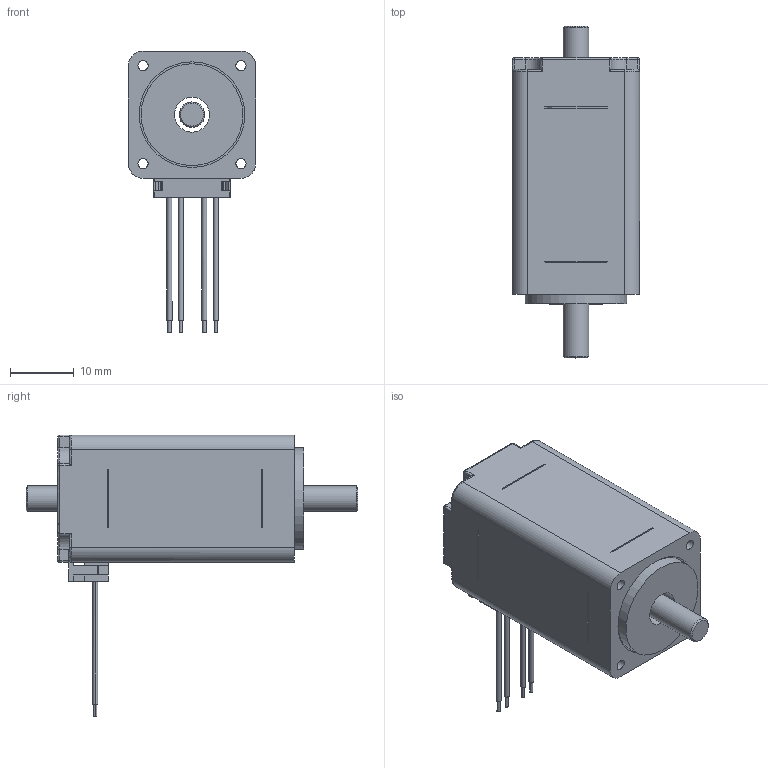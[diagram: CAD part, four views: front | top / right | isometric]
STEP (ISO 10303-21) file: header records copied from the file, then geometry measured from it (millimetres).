
FILE_DESCRIPTION( ('This file contains a STEP AP42 implementation' ,'as created by ZW3D STEP Interface translator.' ,'') ,'2;1' );
FILE_NAME( '20H38H-0604B-XXX.stp' ,'26 119.172741', (''), ('ZWCAD Software Co.'), 'Version 1.0', 'ZW3D to STEP translator', '' );
FILE_SCHEMA(('AUTOMOTIVE_DESIGN { 1 0 10303 214 1 1 1 1 }'));
Length unit declared in the file: millimetre
Products named in the file (1): 0
Bounding box: 20 x 52.2 x 44.32 mm (x, y, z)
Volume: 8453.6 mm3; surface area: 11973.8 mm2
Topology: 2 solids, 2 shells, 962 faces, 3047 edges, 1982 vertices
Faces by surface type: plane 618, cylinder 297, bspline 44, cone 3
Full cylindrical faces by diameter (mm): 0.67 x8, 1.6 x4, 2.2 x4, 4 x1, 5.5 x2, 7 x1, 9 x3, 12.24 x1, 12.5 x1, 16 x1, 16.6 x1
Entity records: 36622 total; most frequent: CARTESIAN_POINT 8452, ORIENTED_EDGE 6080, DIRECTION 5379, EDGE_CURVE 3040, VECTOR 2091, LINE 2091, VERTEX_POINT 1982, AXIS2_PLACEMENT_3D 1644
